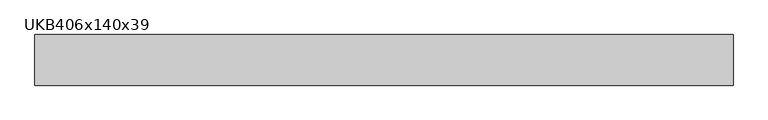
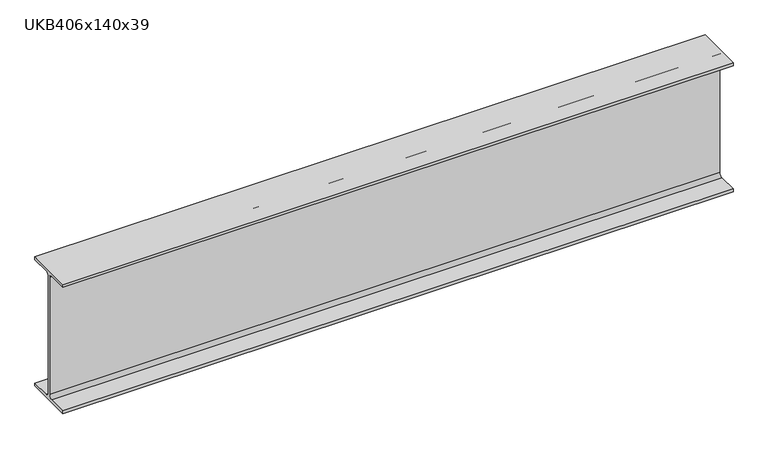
"""IFC4 building model written with IfcOpenShell, lengths in millimetres: beam geometry, UKB-UK Beams : UKB406x140x39."""

from ifc_helpers import new_model, si_unit, point, frame, frame_2d, origin, place, context, project, spatial, polyline, circle_curve, trimmed, segment, composite_curve, outline, extrude, source, transform, mapped, element, save


def ukb406x140x39_7511dd39(model_context):
    return source(origin(), model_context, "Body", "SweptSolid", [
        extrude(outline(composite_curve([segment(polyline([(70.9, -190.4), (70.9, -199.0), (-70.9, -199.0), (-70.9, -190.4), (-13.4, -190.4)]), True, "CONTINUOUS"), segment(trimmed(circle_curve(frame_2d((-13.4, -180.2)), 10.2), [point((-13.4, -190.4))], [point((-3.2, -180.2))], True, "CARTESIAN"), True, "CONTINUOUS"), segment(polyline([(-3.2, -180.2), (-3.2, 180.2)]), True, "CONTINUOUS"), segment(trimmed(circle_curve(frame_2d((-13.4, 180.2)), 10.2), [point((-3.2, 180.2))], [point((-13.4, 190.4))], True, "CARTESIAN"), True, "CONTINUOUS"), segment(polyline([(-13.4, 190.4), (-70.9, 190.4), (-70.9, 199.0), (70.9, 199.0), (70.9, 190.4), (13.4, 190.4)]), True, "CONTINUOUS"), segment(trimmed(circle_curve(frame_2d((13.4, 180.2)), 10.2), [point((13.4, 190.4))], [point((3.2, 180.2))], True, "CARTESIAN"), True, "CONTINUOUS"), segment(polyline([(3.2, 180.2), (3.2, -180.2)]), True, "CONTINUOUS"), segment(trimmed(circle_curve(frame_2d((13.4, -180.2)), 10.2), [point((3.2, -180.2))], [point((13.4, -190.4))], True, "CARTESIAN"), True, "CONTINUOUS"), segment(polyline([(13.4, -190.4), (70.9, -190.4)]), True, "CONTINUOUS")], self_intersect=False)), frame((-978.0, 0.0, 0.0), z_axis=(1.0, 0.0, 0.0), x_axis=(0.0, 1.0, 0.0)), (0.0, 0.0, 1.0), 1956.0),
    ])


if __name__ == "__main__":
    model = new_model("IFC4")
    model_context = context("Model", 3, world=origin())
    ifc_project = project(units=[si_unit("LENGTHUNIT", "METRE", prefix="MILLI")], contexts=[model_context])
    site = spatial("IfcSite", under=ifc_project)
    building = spatial("IfcBuilding", under=site)
    placement = place(None, origin())
    ukb406x140x39_shape = ukb406x140x39_7511dd39(model_context)
    element("IfcBeam", 1, ObjectType="UKB-UK Beams : UKB406x140x39", at=placement, inside=building, context=model_context, shape_type="MappedRepresentation", body=[
        mapped(ukb406x140x39_shape, transform((0.0, 0.0, 0.0), x_axis=(1.0, 0.0, 0.0), y_axis=(0.0, 1.0, 0.0), z_axis=(0.0, 0.0, 1.0))),
    ])
    save(model, "model.ifc")
